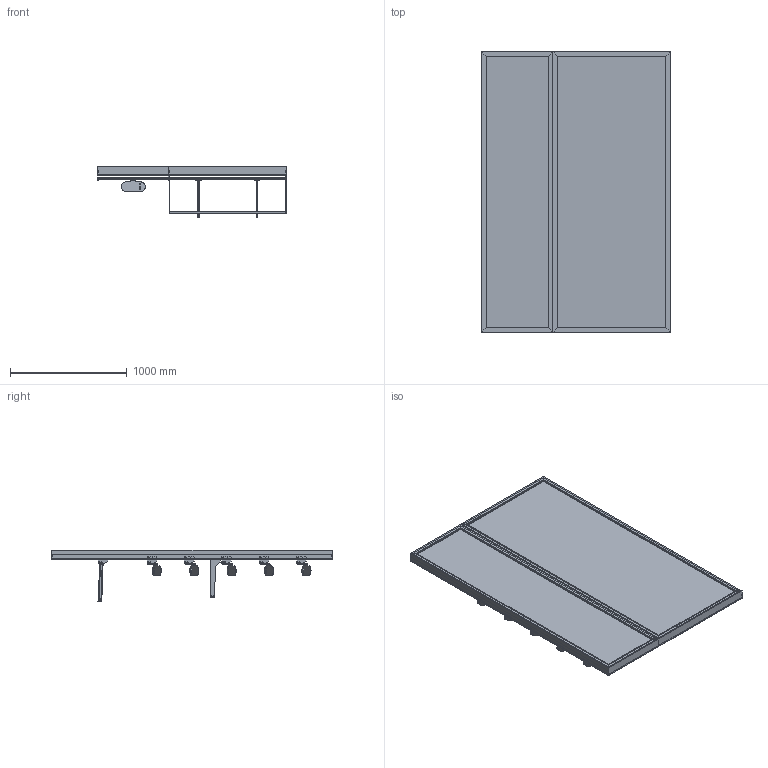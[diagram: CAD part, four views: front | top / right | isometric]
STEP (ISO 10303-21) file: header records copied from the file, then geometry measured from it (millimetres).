
FILE_DESCRIPTION (( 'STEP AP203' ), '1' );
FILE_NAME ('Padel Retail Display - Apparel & Footwear 1.STEP', '2026-03-30T11:40:33', ( '' ), ( '' ), 'SwSTEP 2.0', 'SolidWorks 2025', '' );
FILE_SCHEMA (( 'CONFIG_CONTROL_DESIGN' ));
Length unit declared in the file: millimetre
Products named in the file (22): 0001-31-131.STEP; 0001-31-130.STEP; 0001-31-SA23 - 610W Rear Support Bar.STEP; 0001-31-100.STEP; Padel Retail Display - Apparel & Footwear 1; 0001-31-102.STEP; 0001-31-112.STEP; 0001-31-SA27 - Forward Facing Arm.STEP; 0001-31-GA10 - 1005W Slotted upbright; 0001-31-SA26 - 1005W Rear support Bar.STEP; Padel Retail Display - Footwear 610_Assem13; 0001-31-110.STEP; 373-01-GA01; 0001-31-SA25 - 1005W Side Facing D Rail_Assem9; 0001-31-GA01 - 610W Slotted Upright; 0001-31-SA26 - 1005W Rear support Bar_Assem8; Padel Retail Display - Apparel Single_Assem7; 0001-31-104.STEP; 0001-31-SA27 - Forward Facing Arm_Assem11; 0001-31-SA25 - 1005W Side Facing D Rail.STEP; 0001-31-SA23 - 610W Rear Support Bar_Assem6; 0001-31-103.STEP
Assembly tree (34 placements, depth 5):
  Padel Retail Display - Apparel & Footwear 1
    Padel Retail Display - Apparel Single_Assem7
      0001-31-GA10 - 1005W Slotted upbright
      0001-31-SA27 - Forward Facing Arm_Assem11  x2
        0001-31-SA27 - Forward Facing Arm.STEP
          0001-31-104.STEP
          0001-31-112.STEP
          0001-31-110.STEP
      0001-31-SA25 - 1005W Side Facing D Rail_Assem9
        0001-31-SA25 - 1005W Side Facing D Rail.STEP
          0001-31-100.STEP  x2
          0001-31-130.STEP
      0001-31-SA26 - 1005W Rear support Bar_Assem8
        0001-31-SA26 - 1005W Rear support Bar.STEP
          0001-31-103.STEP  x2
          0001-31-131.STEP
    Padel Retail Display - Footwear 610_Assem13
      0001-31-GA01 - 610W Slotted Upright
      0001-31-SA23 - 610W Rear Support Bar_Assem6  x5
        0001-31-SA23 - 610W Rear Support Bar.STEP
          0001-31-102.STEP
          0001-31-103.STEP  x2
      373-01-GA01  x5
Bounding box: 1615.49 x 2400 x 436.21 mm (x, y, z)
Volume: 15656615.4 mm3; surface area: 21036111.9 mm2
Topology: 44 solids, 44 shells, 1807 faces, 5712 edges, 3776 vertices
Faces by surface type: plane 1479, cylinder 318, bspline 10
Entity records: 46982 total; most frequent: CARTESIAN_POINT 8718, ORIENTED_EDGE 8136, DIRECTION 6432, EDGE_CURVE 4068, LINE 3756, VECTOR 3756, VERTEX_POINT 2704, EDGE_LOOP 1440
